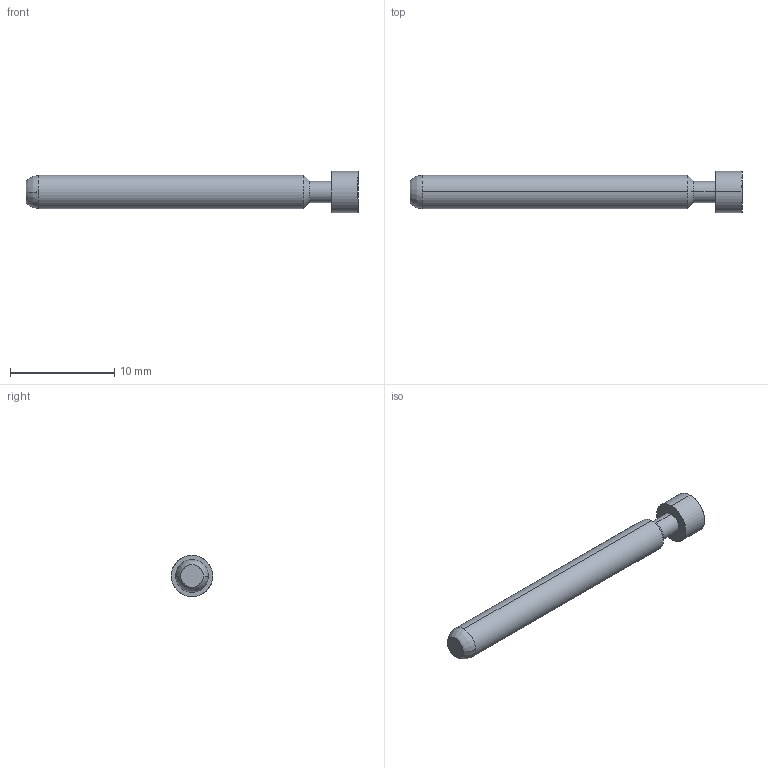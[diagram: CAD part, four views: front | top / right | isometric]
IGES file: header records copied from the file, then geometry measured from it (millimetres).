
Start section: SolidWorks IGES file using analytic representation for surfaces
Global section: file name: Z:\probe solid model mockups\Solidworks models\IGES Files\EPA-5 IGES files\EPA-5A RECD.IGS; native system: SolidWorks 2006 by SolidWorks Corporation; preprocessor: SolidWorks 2006 by SolidWorks Corporation; author: tsakatani; date: 080103.110638; units: inch
Bounding box: 31.83 x 3.96 x 3.96 mm (x, y, z)
Surface area: 347.3 mm2 (no closed solid volume)
Topology: 0 solids, 0 shells, 14 faces, 148 edges, 146 vertices
Faces by surface type: revolution 12, bspline 2
